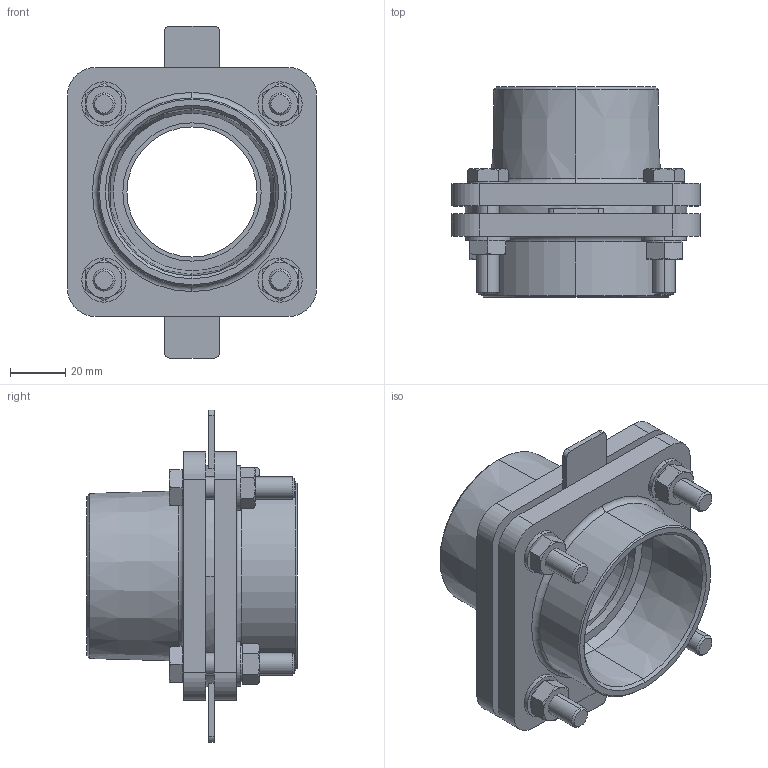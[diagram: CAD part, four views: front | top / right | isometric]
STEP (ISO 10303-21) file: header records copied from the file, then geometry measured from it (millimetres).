
FILE_DESCRIPTION (( 'STEP AP214' ), '1' );
FILE_NAME ('KP_F16-63MF.step', '2012-09-24T15:01:45', ( '' ), ( '' ), 'SwSTEP 2.0', 'SolidWorks 2012', '' );
FILE_SCHEMA (( 'AUTOMOTIVE_DESIGN' ));
Length unit declared in the file: millimetre
Products named in the file (1): KP_F16-63MF
Bounding box: 90 x 76 x 120 mm (x, y, z)
Volume: 171431.3 mm3; surface area: 71430.1 mm2
Topology: 15 solids, 15 shells, 336 faces, 736 edges, 436 vertices
Faces by surface type: plane 148, cylinder 92, cone 84, torus 12
Entity records: 13396 total; most frequent: CARTESIAN_POINT 2053, DIRECTION 1638, ORIENTED_EDGE 1472, EDGE_CURVE 736, AXIS2_PLACEMENT_3D 661, VERTEX_POINT 436, EDGE_LOOP 380, UNCERTAINTY_MEASURE_WITH_UNIT 353
